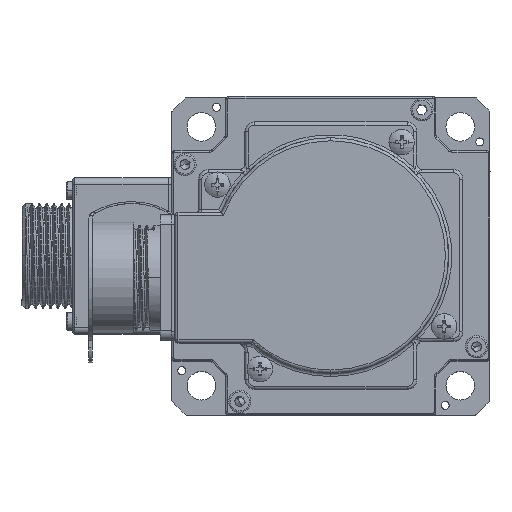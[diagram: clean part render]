
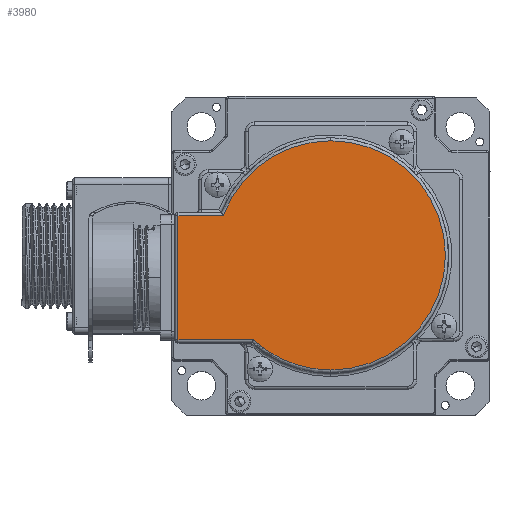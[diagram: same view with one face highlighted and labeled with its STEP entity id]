
A CAD part, top view. The second image highlights one B-rep face of the part: STEP entity #3980.
In plain terms, the highlighted planar face has unit normal (0, 0, 1).
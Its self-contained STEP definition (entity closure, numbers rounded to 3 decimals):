
#206 = CIRCLE ( 'NONE', #24277, 36. ) ;
#601 = DIRECTION ( 'NONE',  ( 0., 0., 1. ) ) ;
#935 = AXIS2_PLACEMENT_3D ( 'NONE', #13578, #21799, #24383 ) ;
#1406 = ORIENTED_EDGE ( 'NONE', *, *, #22374, .T. ) ;
#2561 = VERTEX_POINT ( 'NONE', #30936 ) ;
#3649 = DIRECTION ( 'NONE',  ( 0., 0., 1. ) ) ;
#3980 = ADVANCED_FACE ( 'NONE', ( #4518 ), #29493, .T. ) ;
#4048 = DIRECTION ( 'NONE',  ( 0., -1., 0. ) ) ;
#4287 = CARTESIAN_POINT ( 'NONE',  ( -58.065, 25.199, 49.75 ) ) ;
#4518 = FACE_OUTER_BOUND ( 'NONE', #13840, .T. ) ;
#4577 = EDGE_CURVE ( 'NONE', #27718, #9716, #7389, .T. ) ;
#6513 = CARTESIAN_POINT ( 'NONE',  ( -57.065, -14.801, 49.75 ) ) ;
#7389 = CIRCLE ( 'NONE', #15446, 36. ) ;
#8419 = CARTESIAN_POINT ( 'NONE',  ( -9.065, 12.699, 49.75 ) ) ;
#8442 = EDGE_CURVE ( 'NONE', #2561, #27718, #13000, .T. ) ;
#9716 = VERTEX_POINT ( 'NONE', #31609 ) ;
#12194 = CARTESIAN_POINT ( 'NONE',  ( -33.819, -13.801, 49.75 ) ) ;
#13000 = LINE ( 'NONE', #12194, #13810 ) ;
#13578 = CARTESIAN_POINT ( 'NONE',  ( -9.065, 12.699, 49.75 ) ) ;
#13810 = VECTOR ( 'NONE', #28549, 1000. ) ;
#13840 = EDGE_LOOP ( 'NONE', ( #19049, #23208, #16043, #19157, #1406, #27441 ) ) ;
#15446 = AXIS2_PLACEMENT_3D ( 'NONE', #8419, #601, #25285 ) ;
#16043 = ORIENTED_EDGE ( 'NONE', *, *, #8442, .T. ) ;
#16624 = VECTOR ( 'NONE', #4048, 1000. ) ;
#16648 = CARTESIAN_POINT ( 'NONE',  ( -9.065, 48.699, 49.75 ) ) ;
#17114 = DIRECTION ( 'NONE',  ( 0., 0., 1. ) ) ;
#17345 = CARTESIAN_POINT ( 'NONE',  ( -9.065, 12.699, 49.75 ) ) ;
#19049 = ORIENTED_EDGE ( 'NONE', *, *, #32344, .T. ) ;
#19157 = ORIENTED_EDGE ( 'NONE', *, *, #4577, .T. ) ;
#19185 = VECTOR ( 'NONE', #22853, 1000. ) ;
#19553 = CARTESIAN_POINT ( 'NONE',  ( -9.065, 12.699, 49.75 ) ) ;
#21685 = LINE ( 'NONE', #4287, #19185 ) ;
#21799 = DIRECTION ( 'NONE',  ( 0., 0., 1. ) ) ;
#22255 = CARTESIAN_POINT ( 'NONE',  ( -57.065, 25.199, 49.75 ) ) ;
#22372 = CARTESIAN_POINT ( 'NONE',  ( -33.432, -13.801, 49.75 ) ) ;
#22374 = EDGE_CURVE ( 'NONE', #9716, #27153, #28492, .T. ) ;
#22425 = EDGE_CURVE ( 'NONE', #27153, #32014, #206, .T. ) ;
#22853 = DIRECTION ( 'NONE',  ( -1., 0., 0. ) ) ;
#23208 = ORIENTED_EDGE ( 'NONE', *, *, #33626, .T. ) ;
#23366 = CARTESIAN_POINT ( 'NONE',  ( -42.825, 25.199, 49.75 ) ) ;
#24178 = AXIS2_PLACEMENT_3D ( 'NONE', #19553, #3649, #24942 ) ;
#24277 = AXIS2_PLACEMENT_3D ( 'NONE', #17345, #17114, #32939 ) ;
#24383 = DIRECTION ( 'NONE',  ( 0., 1., 0. ) ) ;
#24942 = DIRECTION ( 'NONE',  ( 0., 1., 0. ) ) ;
#25285 = DIRECTION ( 'NONE',  ( 0., 1., 0. ) ) ;
#25351 = VERTEX_POINT ( 'NONE', #22255 ) ;
#27153 = VERTEX_POINT ( 'NONE', #16648 ) ;
#27441 = ORIENTED_EDGE ( 'NONE', *, *, #22425, .T. ) ;
#27718 = VERTEX_POINT ( 'NONE', #22372 ) ;
#28492 = CIRCLE ( 'NONE', #24178, 36. ) ;
#28549 = DIRECTION ( 'NONE',  ( 1., 0., 0. ) ) ;
#29104 = LINE ( 'NONE', #6513, #16624 ) ;
#29493 = PLANE ( 'NONE',  #935 ) ;
#30936 = CARTESIAN_POINT ( 'NONE',  ( -57.065, -13.801, 49.75 ) ) ;
#31609 = CARTESIAN_POINT ( 'NONE',  ( -9.065, -23.301, 49.75 ) ) ;
#32014 = VERTEX_POINT ( 'NONE', #23366 ) ;
#32344 = EDGE_CURVE ( 'NONE', #32014, #25351, #21685, .T. ) ;
#32939 = DIRECTION ( 'NONE',  ( 0., 1., 0. ) ) ;
#33626 = EDGE_CURVE ( 'NONE', #25351, #2561, #29104, .T. ) ;
